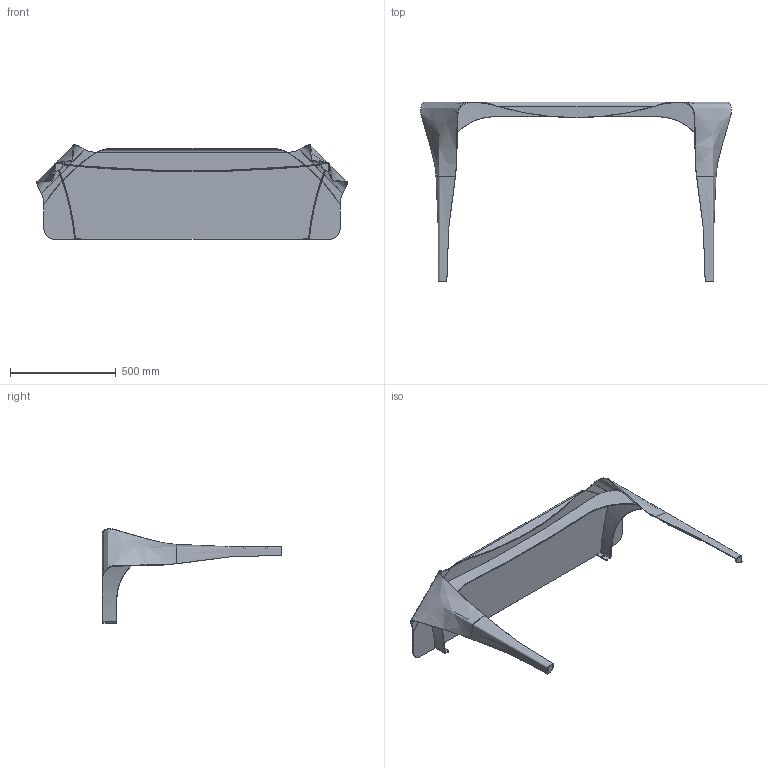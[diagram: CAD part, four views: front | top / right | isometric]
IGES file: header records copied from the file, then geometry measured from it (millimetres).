
Start section: SolidWorks IGES file using analytic representation for surfaces
Global section: file name: \\UTENTI\Dati Utenti\Tecnico\DC\2D - 3D per sito\3D\DeCastelli-3D-Convivium Console.igs; native system: SolidWorks 2022; preprocessor: SolidWorks 2022; author: Silviad; date: 240711.172351; units: millimetre
Bounding box: 1470.94 x 850.06 x 446.48 mm (x, y, z)
Surface area: 2102328.3 mm2 (no closed solid volume)
Topology: 0 solids, 0 shells, 106 faces, 1412 edges, 1412 vertices
Faces by surface type: bspline 67, revolution 39
